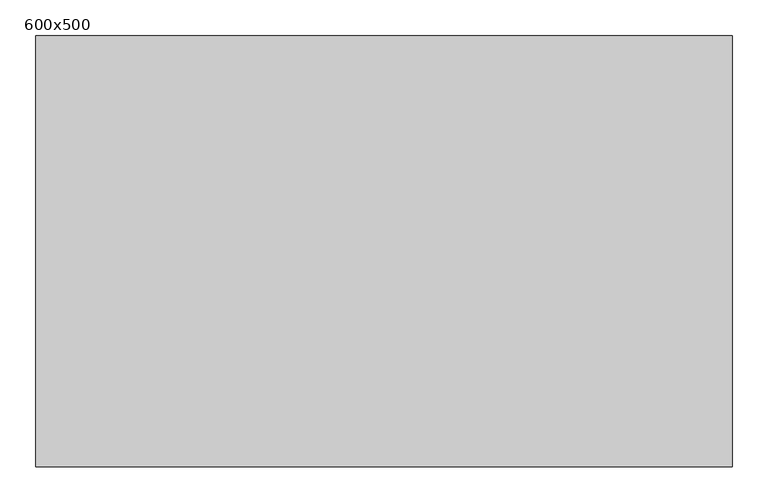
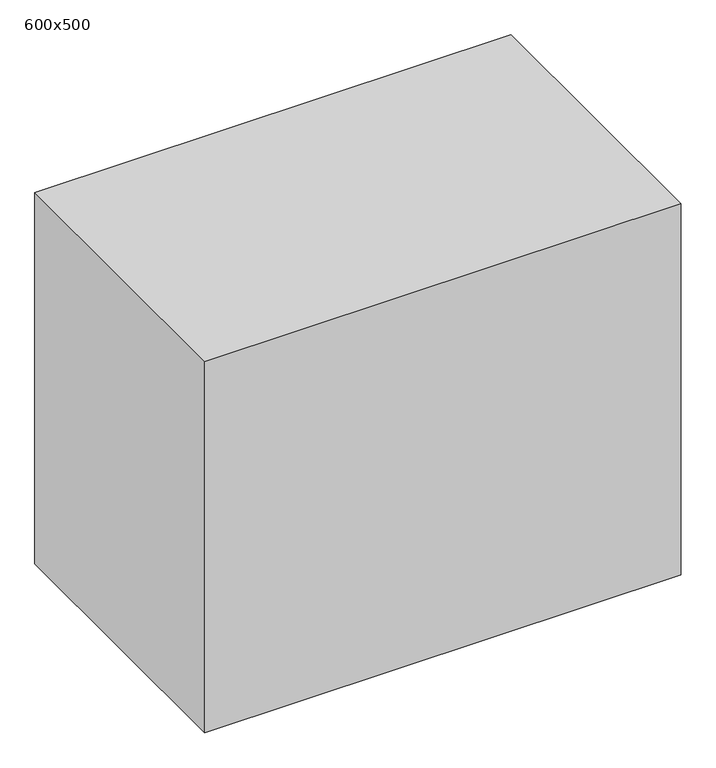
"""IFC4 building model written with IfcOpenShell, lengths in millimetres: flow terminal geometry, SP_раковина_LEG_настраиваемая : 600x500."""

from ifc_helpers import new_model, si_unit, origin, origin_with_axes, place, context, project, spatial, polyline, outline, extrude, source, transform, mapped, element, save


def flow_terminal_600x500_f1ba5d05(model_context):
    return source(origin(), model_context, "Body", "SweptSolid", [
        extrude(outline(polyline([(485.0, 0.0), (485.0, -600.0), (-485.0, -600.0), (-485.0, 0.0), (485.0, 0.0)])), origin_with_axes(), (0.0, 0.0, 1.0), 800.0),
    ])


if __name__ == "__main__":
    model = new_model("IFC4")
    model_context = context("Model", 3, world=origin())
    ifc_project = project(units=[si_unit("LENGTHUNIT", "METRE", prefix="MILLI")], contexts=[model_context])
    site = spatial("IfcSite", under=ifc_project)
    building = spatial("IfcBuilding", under=site)
    placement = place(None, origin())
    flow_terminal_600x500_shape = flow_terminal_600x500_f1ba5d05(model_context)
    element("IfcFlowTerminal", 1, ObjectType="SP_раковина_LEG_настраиваемая : 600x500", at=placement, inside=building, context=model_context, shape_type="MappedRepresentation", body=[
        mapped(flow_terminal_600x500_shape, transform((0.0, 0.0, 0.0), x_axis=(1.0, 0.0, 0.0), y_axis=(0.0, 1.0, 0.0), z_axis=(0.0, 0.0, 1.0))),
    ])
    save(model, "model.ifc")
